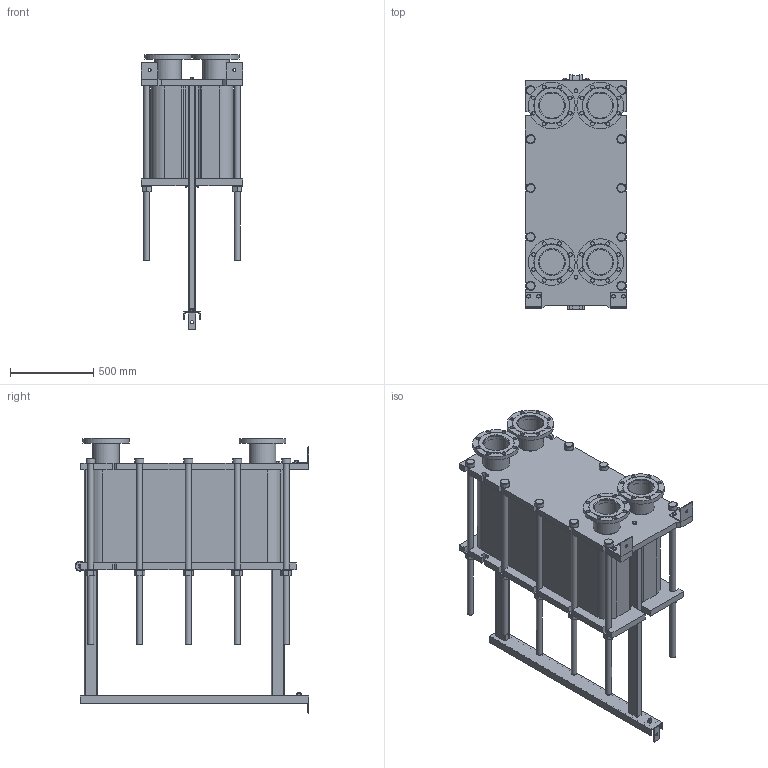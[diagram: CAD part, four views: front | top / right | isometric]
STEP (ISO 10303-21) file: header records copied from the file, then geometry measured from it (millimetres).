
FILE_DESCRIPTION(/* description */ (''),/* implementation_level */ '2;1');
FILE_NAME(/* name */ 'C:\Users\zhuro\Desktop\ENCO\TO\ЭН-041\ЭН-0,5-041-162-1.stp',/* time_stamp */ '2022-06-06T11:04:00+03:00',/* author */ ('zhuro'),/* organization */ (''),/* preprocessor_version */ 'ST-DEVELOPER v18.1',/* originating_system */ 'Autodesk Inventor 2022',/* authorisation */ '');
FILE_SCHEMA (('AUTOMOTIVE_DESIGN { 1 0 10303 214 3 1 1 }'));
Length unit declared in the file: millimetre
Products named in the file (1): ЭН-0,5-041-162-1
Bounding box: 610 x 1406.5 x 1655 mm (x, y, z)
Volume: 399176245.6 mm3; surface area: 10391560.3 mm2
Topology: 52 solids, 52 shells, 711 faces, 1696 edges, 1094 vertices
Faces by surface type: plane 487, cylinder 177, cone 41, torus 6
Full cylindrical faces by diameter (mm): 8 x4, 10 x2, 16 x8, 18 x3, 22 x32, 36 x24, 50 x1, 54 x10, 60 x12, 151 x4, 161 x8, 280 x4
Entity records: 22667 total; most frequent: CARTESIAN_POINT 5230, DIRECTION 3644, ORIENTED_EDGE 3392, EDGE_CURVE 1696, AXIS2_PLACEMENT_3D 1272, LINE 1100, VECTOR 1100, VERTEX_POINT 1094
